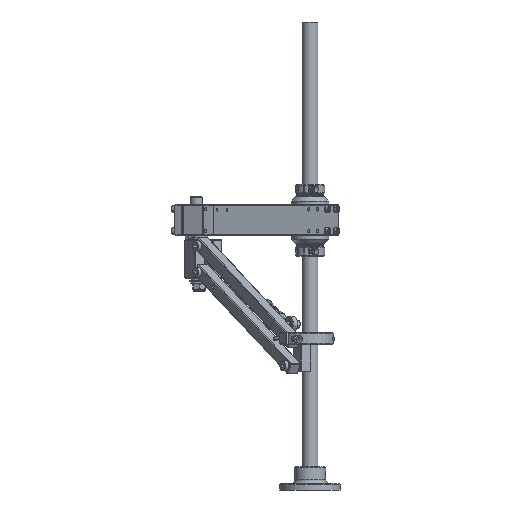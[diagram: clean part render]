
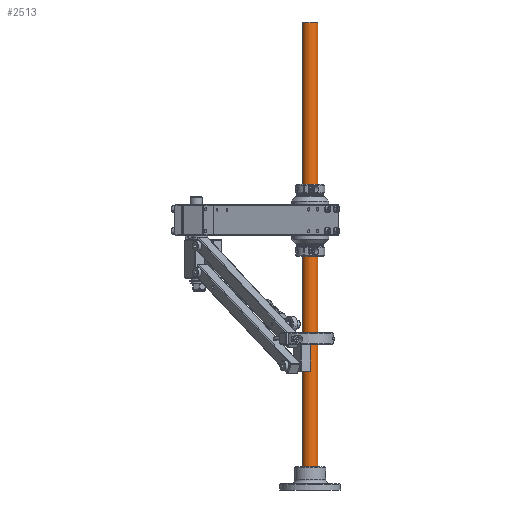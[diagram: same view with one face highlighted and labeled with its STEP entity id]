
A CAD part, front view. The second image highlights one B-rep face of the part: STEP entity #2513.
In plain terms, the highlighted cylindrical face has radius 10 mm (diameter 20 mm), a full revolution.
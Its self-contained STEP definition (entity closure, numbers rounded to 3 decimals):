
#2513 = ADVANCED_FACE( '', ( #5170, #5171 ), #5172, .T. );
#5170 = FACE_OUTER_BOUND( '', #8719, .T. );
#5171 = FACE_OUTER_BOUND( '', #8720, .T. );
#5172 = CYLINDRICAL_SURFACE( '', #8721, 10. );
#8719 = EDGE_LOOP( '', ( #13748 ) );
#8720 = EDGE_LOOP( '', ( #13749 ) );
#8721 = AXIS2_PLACEMENT_3D( '', #13750, #13751, #13752 );
#13748 = ORIENTED_EDGE( '', *, *, #20803, .T. );
#13749 = ORIENTED_EDGE( '', *, *, #19767, .T. );
#13750 = CARTESIAN_POINT( '', ( 0., 0., 600. ) );
#13751 = DIRECTION( '', ( 0., 0., 1. ) );
#13752 = DIRECTION( '', ( -1., 0., 0. ) );
#19767 = EDGE_CURVE( '', #24483, #24483, #24484, .T. );
#20803 = EDGE_CURVE( '', #26174, #26174, #26175, .F. );
#24483 = VERTEX_POINT( '', #29449 );
#24484 = CIRCLE( '', #29450, 10. );
#26174 = VERTEX_POINT( '', #32478 );
#26175 = CIRCLE( '', #32479, 10. );
#29449 = CARTESIAN_POINT( '', ( -10., 0., 599. ) );
#29450 = AXIS2_PLACEMENT_3D( '', #37272, #37273, #37274 );
#32478 = CARTESIAN_POINT( '', ( -10., 0., 1. ) );
#32479 = AXIS2_PLACEMENT_3D( '', #38515, #38516, #38517 );
#37272 = CARTESIAN_POINT( '', ( 0., 0., 599. ) );
#37273 = DIRECTION( '', ( 0., 0., -1. ) );
#37274 = DIRECTION( '', ( -1., 0., 0. ) );
#38515 = CARTESIAN_POINT( '', ( 0., 0., 1. ) );
#38516 = DIRECTION( '', ( 0., 0., -1. ) );
#38517 = DIRECTION( '', ( -1., 0., 0. ) );
